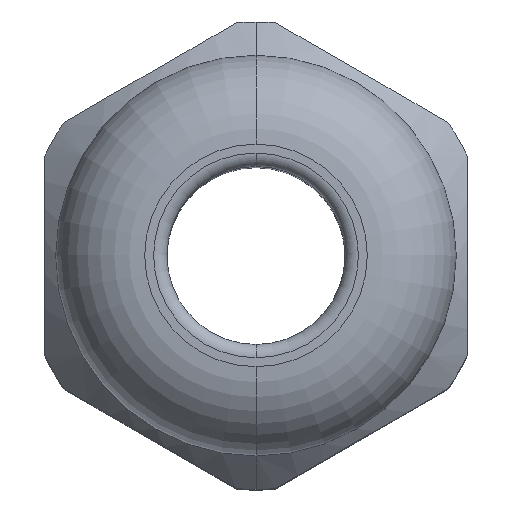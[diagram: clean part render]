
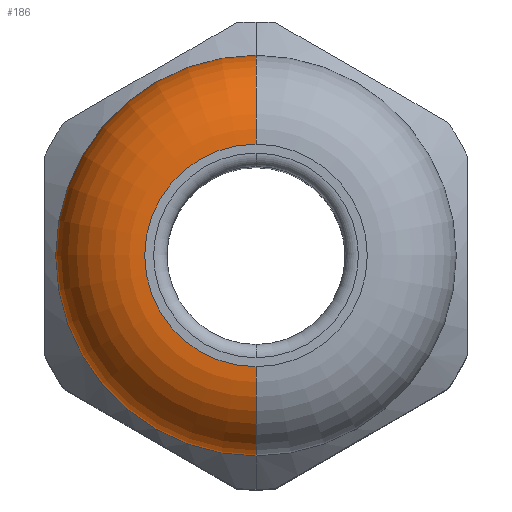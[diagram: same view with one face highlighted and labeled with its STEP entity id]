
A CAD part, top view. The second image highlights one B-rep face of the part: STEP entity #186.
In plain terms, the highlighted toroidal (fillet/blend) face has major radius 5 mm and minor radius 4 mm.
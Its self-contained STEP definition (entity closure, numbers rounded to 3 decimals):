
#38 = VERTEX_POINT ( 'NONE', #2615 ) ;
#44 = VERTEX_POINT ( 'NONE', #2670 ) ;
#133 = VERTEX_POINT ( 'NONE', #993 ) ;
#134 = VERTEX_POINT ( 'NONE', #992 ) ;
#136 = EDGE_CURVE ( 'NONE', #44, #133, #991, .T. ) ;
#169 = EDGE_CURVE ( 'NONE', #38, #134, #1105, .T. ) ;
#181 = ORIENTED_EDGE ( 'NONE', *, *, #169, .F. ) ;
#182 = ORIENTED_EDGE ( 'NONE', *, *, #183, .T. ) ;
#183 = EDGE_CURVE ( 'NONE', #38, #44, #1064, .T. ) ;
#186 = ADVANCED_FACE ( 'NONE', ( #1059 ), #1058, .T. ) ;
#187 = EDGE_LOOP ( 'NONE', ( #181, #182, #394, #395 ) ) ;
#389 = EDGE_CURVE ( 'NONE', #134, #133, #1521, .T. ) ;
#394 = ORIENTED_EDGE ( 'NONE', *, *, #136, .T. ) ;
#395 = ORIENTED_EDGE ( 'NONE', *, *, #389, .F. ) ;
#991 = CIRCLE ( 'NONE', #1147, 4. ) ;
#992 = CARTESIAN_POINT ( 'NONE',  ( 0., -9., 30. ) ) ;
#993 = CARTESIAN_POINT ( 'NONE',  ( 0., 9., 30. ) ) ;
#1053 = DIRECTION ( 'NONE',  ( 0., 1., 0. ) ) ;
#1054 = DIRECTION ( 'NONE',  ( 0., 0., -1. ) ) ;
#1055 = CARTESIAN_POINT ( 'NONE',  ( 0., 0., 30. ) ) ;
#1056 = AXIS2_PLACEMENT_3D ( 'NONE', #1055, #1054, #1053 ) ;
#1058 = TOROIDAL_SURFACE ( 'NONE', #1056, 5., 4. ) ;
#1059 = FACE_OUTER_BOUND ( 'NONE', #187, .T. ) ;
#1060 = DIRECTION ( 'NONE',  ( 0., 1., 0. ) ) ;
#1061 = DIRECTION ( 'NONE',  ( 0., 0., -1. ) ) ;
#1062 = CARTESIAN_POINT ( 'NONE',  ( 0., 0., 34. ) ) ;
#1063 = AXIS2_PLACEMENT_3D ( 'NONE', #1062, #1061, #1060 ) ;
#1064 = CIRCLE ( 'NONE', #1063, 5. ) ;
#1101 = DIRECTION ( 'NONE',  ( 0., 1., 0. ) ) ;
#1102 = DIRECTION ( 'NONE',  ( 1., 0., 0. ) ) ;
#1103 = CARTESIAN_POINT ( 'NONE',  ( 0., -5., 30. ) ) ;
#1104 = AXIS2_PLACEMENT_3D ( 'NONE', #1103, #1102, #1101 ) ;
#1105 = CIRCLE ( 'NONE', #1104, 4. ) ;
#1144 = DIRECTION ( 'NONE',  ( 0., 0., 1. ) ) ;
#1145 = DIRECTION ( 'NONE',  ( -1., 0., 0. ) ) ;
#1146 = CARTESIAN_POINT ( 'NONE',  ( 0., 5., 30. ) ) ;
#1147 = AXIS2_PLACEMENT_3D ( 'NONE', #1146, #1145, #1144 ) ;
#1518 = DIRECTION ( 'NONE',  ( 0., 0., -1. ) ) ;
#1519 = CARTESIAN_POINT ( 'NONE',  ( 0., 0., 30. ) ) ;
#1520 = AXIS2_PLACEMENT_3D ( 'NONE', #1519, #1518, #1644 ) ;
#1521 = CIRCLE ( 'NONE', #1520, 9. ) ;
#1644 = DIRECTION ( 'NONE',  ( 0., 1., 0. ) ) ;
#2615 = CARTESIAN_POINT ( 'NONE',  ( 0., -5., 34. ) ) ;
#2670 = CARTESIAN_POINT ( 'NONE',  ( 0., 5., 34. ) ) ;
